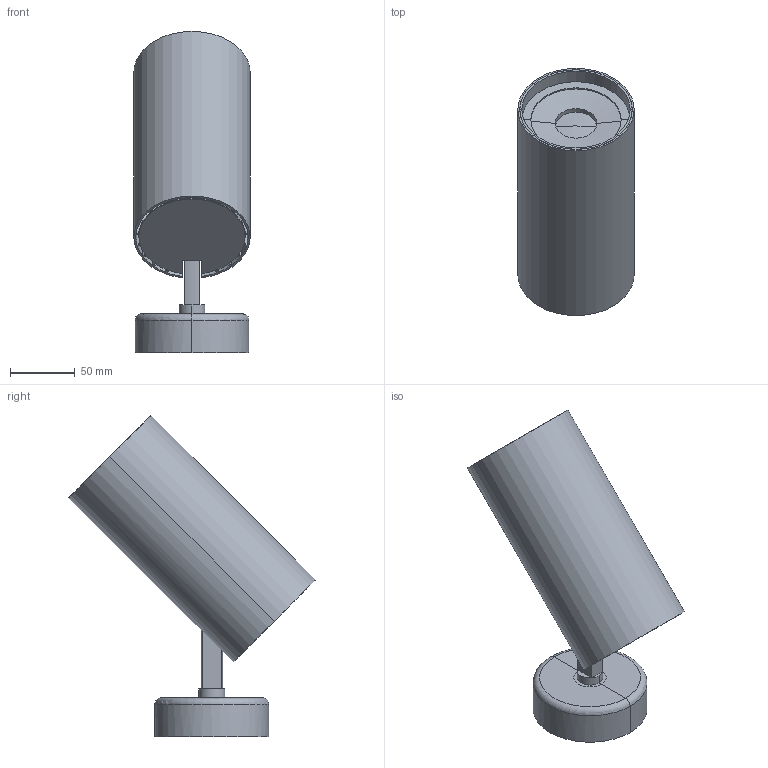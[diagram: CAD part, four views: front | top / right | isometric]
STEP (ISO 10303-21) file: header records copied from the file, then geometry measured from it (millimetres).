
FILE_DESCRIPTION(/* description */ (''),/* implementation_level */ '2;1');
FILE_NAME(/* name */ 'C:\Users\FrancoSartori\Documents\FARO\01_En Proceso\0000_2022\000_PRO\00_FOST\03_Publicación\FOST SURFACE90.stp',/* time_stamp */ '2022-04-21T09:30:40+02:00',/* author */ ('FrancoSartori'),/* organization */ (''),/* preprocessor_version */ 'ST-DEVELOPER v19',/* originating_system */ 'AutoCAD Mechanical',/* authorisation */ '');
FILE_SCHEMA (('AUTOMOTIVE_DESIGN { 1 0 10303 214 3 1 1 }'));
Length unit declared in the file: millimetre
Products named in the file (2): Product; FOST SURFACE90_ - Lamp-716413-Export
Assembly tree (1 placements, depth 2):
  Product
    FOST SURFACE90_ - Lamp-716413-Export
Bounding box: 90 x 190.92 x 248.26 mm (x, y, z)
Volume: 317846.3 mm3; surface area: 274121.4 mm2
Topology: 7 solids, 8 shells, 336 faces, 930 edges, 573 vertices
Faces by surface type: plane 198, cylinder 106, cone 16, torus 12, sphere 2, bspline 2
Entity records: 11496 total; most frequent: CARTESIAN_POINT 2695, DIRECTION 1857, ORIENTED_EDGE 1852, EDGE_CURVE 928, AXIS2_PLACEMENT_3D 641, LINE 575, VECTOR 575, VERTEX_POINT 573
